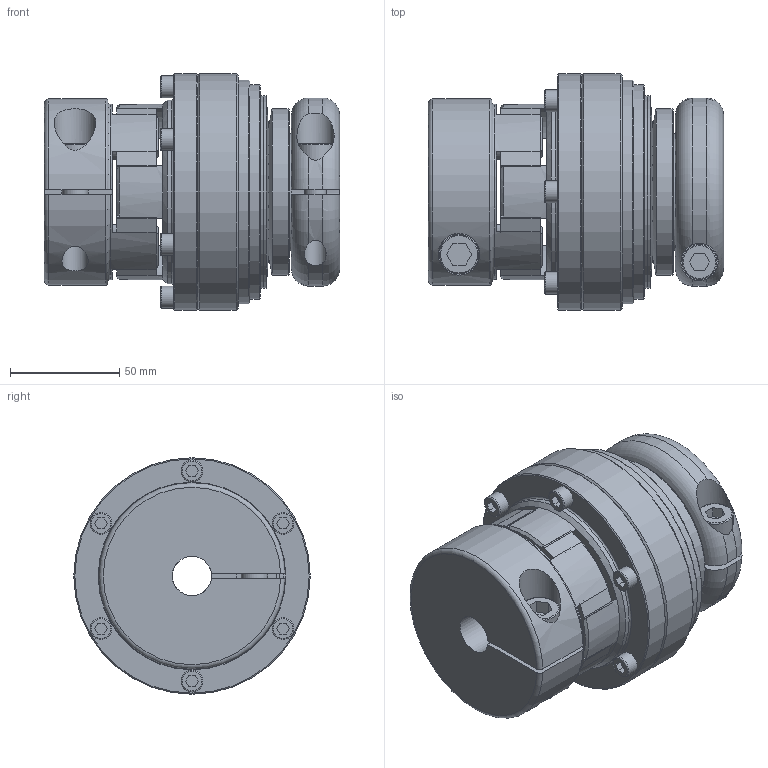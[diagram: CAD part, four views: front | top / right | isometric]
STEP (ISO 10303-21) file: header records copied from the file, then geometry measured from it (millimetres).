
FILE_DESCRIPTION(/* description */ ('Unknown'),/* implementation_level */ '2;1');
FILE_NAME(/* name */ 'SKVA-EK 150',/* time_stamp */ '2025-02-12T14:26:12+01:00',/* author */ ('Unknown'),/* organization */ ('Unknown'),/* preprocessor_version */ 'ST-DEVELOPER v18.102',/* originating_system */ 'Solid Edge',/* authorisation */ 'Unknown');
FILE_SCHEMA (('AUTOMOTIVE_DESIGN {1 0 10303 214 3 1 1}'));
Length unit declared in the file: millimetre
Products named in the file (1): SKVA-EK 150
Bounding box: 134.8 x 108 x 108 mm (x, y, z)
Volume: 738791.8 mm3; surface area: 105651.9 mm2
Topology: 1 solids, 3 shells, 278 faces, 721 edges, 448 vertices
Faces by surface type: plane 115, bspline 68, cylinder 51, cone 30, torus 14
Full cylindrical faces by diameter (mm): 10 x9, 12 x3, 16 x1, 17 x1, 18 x2, 19 x1, 40.31 x1, 49 x1, 76 x1, 84 x1, 98 x1, 102 x1, 108 x2
Entity records: 8694 total; most frequent: CARTESIAN_POINT 2592, ORIENTED_EDGE 1314, DIRECTION 1058, EDGE_CURVE 657, VERTEX_POINT 432, AXIS2_PLACEMENT_3D 390, EDGE_LOOP 361, FACE_BOUND 361
